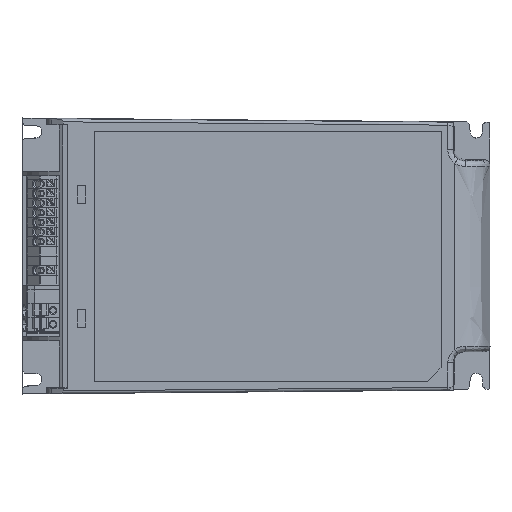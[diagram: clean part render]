
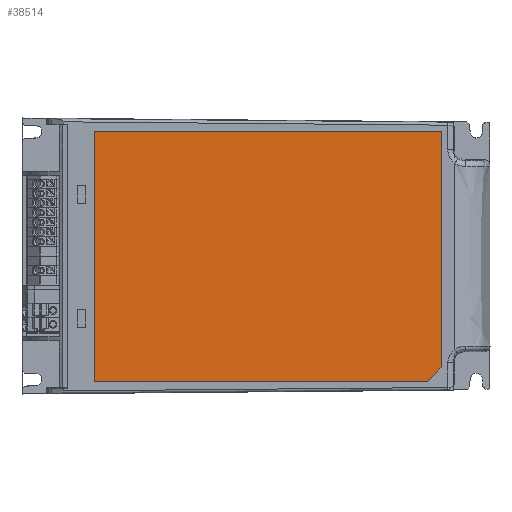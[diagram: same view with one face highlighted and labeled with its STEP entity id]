
A CAD part, top view. The second image highlights one B-rep face of the part: STEP entity #38514.
In plain terms, the highlighted planar face has unit normal (0.009, -0.008, 1) as drawn and (-0.009, 1, 0) by its records, which use the part's own axes.
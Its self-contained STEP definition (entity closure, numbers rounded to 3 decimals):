
#35102=DIRECTION('',(-1.,-0.009,0.));
#35103=VECTOR('',#35102,121.);
#35104=CARTESIAN_POINT('',(-26.224,39.571,-45.5));
#35105=LINE('',#35104,#35103);
#35106=DIRECTION('',(0.,0.,-1.));
#35107=VECTOR('',#35106,91.);
#35108=CARTESIAN_POINT('',(-26.224,39.571,45.5));
#35109=LINE('',#35108,#35107);
#35110=DIRECTION('',(1.,0.009,0.));
#35111=VECTOR('',#35110,126.);
#35112=CARTESIAN_POINT('',(-152.219,38.472,45.5));
#35113=LINE('',#35112,#35111);
#35114=DIRECTION('',(0.,0.,1.));
#35115=VECTOR('',#35114,86.);
#35116=CARTESIAN_POINT('',(-152.219,38.472,-40.5));
#35117=LINE('',#35116,#35115);
#35118=DIRECTION('',(-0.707,-0.006,0.707));
#35119=VECTOR('',#35118,7.071);
#35120=CARTESIAN_POINT('',(-147.219,38.515,-45.5));
#35121=LINE('',#35120,#35119);
#35150=CARTESIAN_POINT('',(-152.219,38.472,45.5));
#35151=CARTESIAN_POINT('',(-26.224,39.571,45.5));
#35152=VERTEX_POINT('',#35150);
#35153=VERTEX_POINT('',#35151);
#35154=CARTESIAN_POINT('',(-26.224,39.571,-45.5));
#35155=VERTEX_POINT('',#35154);
#35210=CARTESIAN_POINT('',(-147.219,38.515,-45.5));
#35211=VERTEX_POINT('',#35210);
#35538=CARTESIAN_POINT('',(-152.219,38.472,-40.5));
#35539=VERTEX_POINT('',#35538);
#38498=CARTESIAN_POINT('',(-0.347,39.797,0.));
#38499=DIRECTION('',(-0.009,1.,0.));
#38500=DIRECTION('',(1.,0.009,0.));
#38501=AXIS2_PLACEMENT_3D('',#38498,#38499,#38500);
#38502=PLANE('',#38501);
#38503=ORIENTED_EDGE('',*,*,#38488,.F.);
#38505=ORIENTED_EDGE('',*,*,#38504,.F.);
#38507=ORIENTED_EDGE('',*,*,#38506,.F.);
#38509=ORIENTED_EDGE('',*,*,#38508,.F.);
#38511=ORIENTED_EDGE('',*,*,#38510,.F.);
#38512=EDGE_LOOP('',(#38503,#38505,#38507,#38509,#38511));
#38513=FACE_OUTER_BOUND('',#38512,.F.);
#38514=ADVANCED_FACE('',(#38513),#38502,.T.);
#38488=EDGE_CURVE('',#35155,#35211,#35105,.T.);
#38504=EDGE_CURVE('',#35153,#35155,#35109,.T.);
#38506=EDGE_CURVE('',#35152,#35153,#35113,.T.);
#38508=EDGE_CURVE('',#35539,#35152,#35117,.T.);
#38510=EDGE_CURVE('',#35211,#35539,#35121,.T.);
